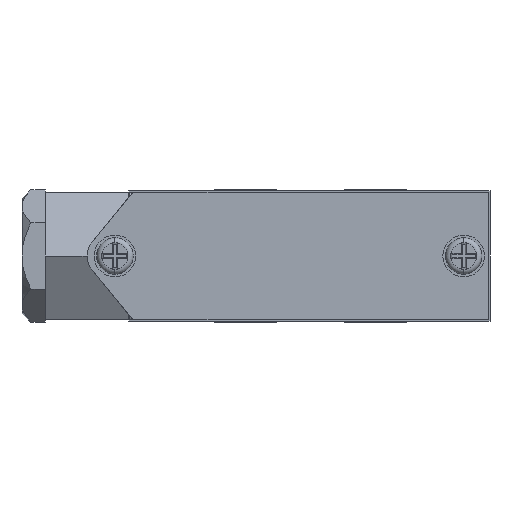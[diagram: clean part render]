
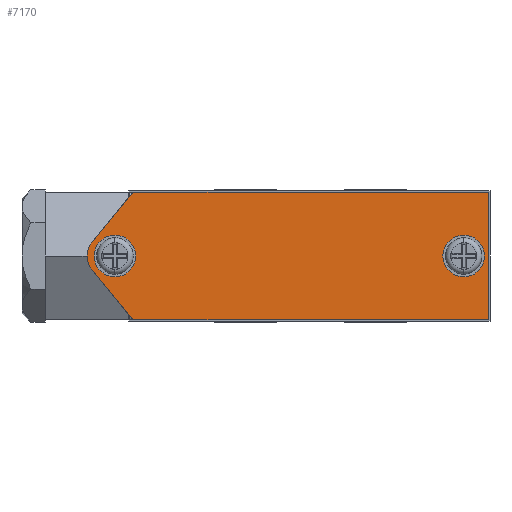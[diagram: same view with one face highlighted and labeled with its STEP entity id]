
A CAD part, front view. The second image highlights one B-rep face of the part: STEP entity #7170.
In plain terms, the highlighted planar face has unit normal (0, -1, 0).
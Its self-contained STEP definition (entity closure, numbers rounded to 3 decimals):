
#1113 = PLANE ( 'NONE',  #4525 ) ;
#1114 = CARTESIAN_POINT ( 'NONE',  ( 0., 0., 0. ) ) ;
#1115 = DIRECTION ( 'NONE',  ( 0., -1., 0. ) ) ;
#1116 = DIRECTION ( 'NONE',  ( 0., 0., -1. ) ) ;
#1950 = CARTESIAN_POINT ( 'NONE',  ( 29.4, 0., 0. ) ) ;
#1951 = DIRECTION ( 'NONE',  ( 0., -1., 0. ) ) ;
#1952 = DIRECTION ( 'NONE',  ( 0., 0., -1. ) ) ;
#1983 = CARTESIAN_POINT ( 'NONE',  ( -37.6, 0., 0. ) ) ;
#1984 = DIRECTION ( 'NONE',  ( 0., -1., 0. ) ) ;
#1985 = DIRECTION ( 'NONE',  ( 0., 0., -1. ) ) ;
#2983 = ORIENTED_EDGE ( 'NONE', *, *, #6931, .F. ) ;
#2984 = ORIENTED_EDGE ( 'NONE', *, *, #6930, .T. ) ;
#2986 = ORIENTED_EDGE ( 'NONE', *, *, #6929, .T. ) ;
#2988 = ORIENTED_EDGE ( 'NONE', *, *, #6922, .F. ) ;
#2989 = ORIENTED_EDGE ( 'NONE', *, *, #6927, .T. ) ;
#2991 = ORIENTED_EDGE ( 'NONE', *, *, #7387, .F. ) ;
#2994 = ORIENTED_EDGE ( 'NONE', *, *, #7398, .F. ) ;
#2995 = ORIENTED_EDGE ( 'NONE', *, *, #6923, .F. ) ;
#2996 = ORIENTED_EDGE ( 'NONE', *, *, #6915, .F. ) ;
#2997 = ORIENTED_EDGE ( 'NONE', *, *, #6919, .F. ) ;
#3472 = CARTESIAN_POINT ( 'NONE',  ( -37.6, 0., 4. ) ) ;
#3473 = CARTESIAN_POINT ( 'NONE',  ( -37.6, 0., -4. ) ) ;
#3476 = CARTESIAN_POINT ( 'NONE',  ( 29.4, 0., 4. ) ) ;
#3477 = CARTESIAN_POINT ( 'NONE',  ( 29.4, 0., -4. ) ) ;
#3680 = CARTESIAN_POINT ( 'NONE',  ( 34.15, 0., 12.25 ) ) ;
#3681 = CARTESIAN_POINT ( 'NONE',  ( 34.15, 0., -12.25 ) ) ;
#3682 = CARTESIAN_POINT ( 'NONE',  ( -34.15, 0., 12.25 ) ) ;
#3683 = CARTESIAN_POINT ( 'NONE',  ( -42.054, 0., 2.523 ) ) ;
#3684 = CARTESIAN_POINT ( 'NONE',  ( -42.054, 0., -2.523 ) ) ;
#3685 = CARTESIAN_POINT ( 'NONE',  ( -34.15, 0., -12.25 ) ) ;
#3892 = CARTESIAN_POINT ( 'NONE',  ( -37.6, 0., 0. ) ) ;
#3902 = DIRECTION ( 'NONE',  ( 0., -1., 0. ) ) ;
#3903 = DIRECTION ( 'NONE',  ( 0., 0., -1. ) ) ;
#3904 = CARTESIAN_POINT ( 'NONE',  ( 29.4, 0., 0. ) ) ;
#3914 = DIRECTION ( 'NONE',  ( 0., -1., 0. ) ) ;
#3915 = DIRECTION ( 'NONE',  ( 0., 0., -1. ) ) ;
#3923 = LINE ( 'NONE', #3924, #4908 ) ;
#3924 = CARTESIAN_POINT ( 'NONE',  ( -34.15, 0., 12.25 ) ) ;
#3925 = DIRECTION ( 'NONE',  ( 1., 0., 0. ) ) ;
#3926 = LINE ( 'NONE', #3927, #4907 ) ;
#3927 = CARTESIAN_POINT ( 'NONE',  ( 34.15, 0., 12.25 ) ) ;
#3928 = DIRECTION ( 'NONE',  ( 0., 0., -1. ) ) ;
#3934 = CARTESIAN_POINT ( 'NONE',  ( -38.95, 0., 0. ) ) ;
#3938 = LINE ( 'NONE', #3939, #4904 ) ;
#3939 = CARTESIAN_POINT ( 'NONE',  ( -34.15, 0., 12.25 ) ) ;
#3940 = DIRECTION ( 'NONE',  ( -0.631, 0., -0.776 ) ) ;
#3944 = DIRECTION ( 'NONE',  ( 0., -1., 0. ) ) ;
#3945 = DIRECTION ( 'NONE',  ( 0., 0., -1. ) ) ;
#3947 = LINE ( 'NONE', #3948, #4901 ) ;
#3948 = CARTESIAN_POINT ( 'NONE',  ( -42.054, 0., -2.523 ) ) ;
#3949 = DIRECTION ( 'NONE',  ( 0.631, 0., -0.776 ) ) ;
#3950 = LINE ( 'NONE', #3951, #4900 ) ;
#3951 = CARTESIAN_POINT ( 'NONE',  ( -34.15, 0., -12.25 ) ) ;
#3952 = DIRECTION ( 'NONE',  ( -1., 0., 0. ) ) ;
#4198 = AXIS2_PLACEMENT_3D ( 'NONE', #1983, #1984, #1985 ) ;
#4205 = AXIS2_PLACEMENT_3D ( 'NONE', #1950, #1951, #1952 ) ;
#4525 = AXIS2_PLACEMENT_3D ( 'NONE', #1114, #1115, #1116 ) ;
#4527 = FACE_OUTER_BOUND ( 'NONE', #6372, .T. ) ;
#4530 = FACE_BOUND ( 'NONE', #6371, .T. ) ;
#4533 = FACE_BOUND ( 'NONE', #6370, .T. ) ;
#4900 = VECTOR ( 'NONE', #3952, 1000. ) ;
#4901 = VECTOR ( 'NONE', #3949, 1000. ) ;
#4903 = AXIS2_PLACEMENT_3D ( 'NONE', #3934, #3944, #3945 ) ;
#4904 = VECTOR ( 'NONE', #3940, 1000. ) ;
#4907 = VECTOR ( 'NONE', #3928, 1000. ) ;
#4908 = VECTOR ( 'NONE', #3925, 1000. ) ;
#4913 = AXIS2_PLACEMENT_3D ( 'NONE', #3904, #3914, #3915 ) ;
#4917 = AXIS2_PLACEMENT_3D ( 'NONE', #3892, #3902, #3903 ) ;
#5308 = CIRCLE ( 'NONE', #4198, 4. ) ;
#5313 = CIRCLE ( 'NONE', #4205, 4. ) ;
#5388 = CIRCLE ( 'NONE', #4903, 4. ) ;
#5395 = CIRCLE ( 'NONE', #4913, 4. ) ;
#5396 = CIRCLE ( 'NONE', #4917, 4. ) ;
#5740 = VERTEX_POINT ( 'NONE', #3472 ) ;
#5741 = VERTEX_POINT ( 'NONE', #3473 ) ;
#5744 = VERTEX_POINT ( 'NONE', #3476 ) ;
#5745 = VERTEX_POINT ( 'NONE', #3477 ) ;
#6196 = VERTEX_POINT ( 'NONE', #3680 ) ;
#6197 = VERTEX_POINT ( 'NONE', #3681 ) ;
#6198 = VERTEX_POINT ( 'NONE', #3682 ) ;
#6199 = VERTEX_POINT ( 'NONE', #3683 ) ;
#6200 = VERTEX_POINT ( 'NONE', #3684 ) ;
#6201 = VERTEX_POINT ( 'NONE', #3685 ) ;
#6370 = EDGE_LOOP ( 'NONE', ( #2996, #2994 ) ) ;
#6371 = EDGE_LOOP ( 'NONE', ( #2997, #2991 ) ) ;
#6372 = EDGE_LOOP ( 'NONE', ( #2995, #2988, #2989, #2986, #2984, #2983 ) ) ;
#6915 = EDGE_CURVE ( 'NONE', #5741, #5740, #5396, .T. ) ;
#6919 = EDGE_CURVE ( 'NONE', #5745, #5744, #5395, .T. ) ;
#6922 = EDGE_CURVE ( 'NONE', #6198, #6196, #3923, .T. ) ;
#6923 = EDGE_CURVE ( 'NONE', #6196, #6197, #3926, .T. ) ;
#6927 = EDGE_CURVE ( 'NONE', #6198, #6199, #3938, .T. ) ;
#6929 = EDGE_CURVE ( 'NONE', #6199, #6200, #5388, .T. ) ;
#6930 = EDGE_CURVE ( 'NONE', #6200, #6201, #3947, .T. ) ;
#6931 = EDGE_CURVE ( 'NONE', #6197, #6201, #3950, .T. ) ;
#7170 = ADVANCED_FACE ( 'NONE', ( #4533, #4530, #4527 ), #1113, .T. ) ;
#7387 = EDGE_CURVE ( 'NONE', #5744, #5745, #5313, .T. ) ;
#7398 = EDGE_CURVE ( 'NONE', #5740, #5741, #5308, .T. ) ;
